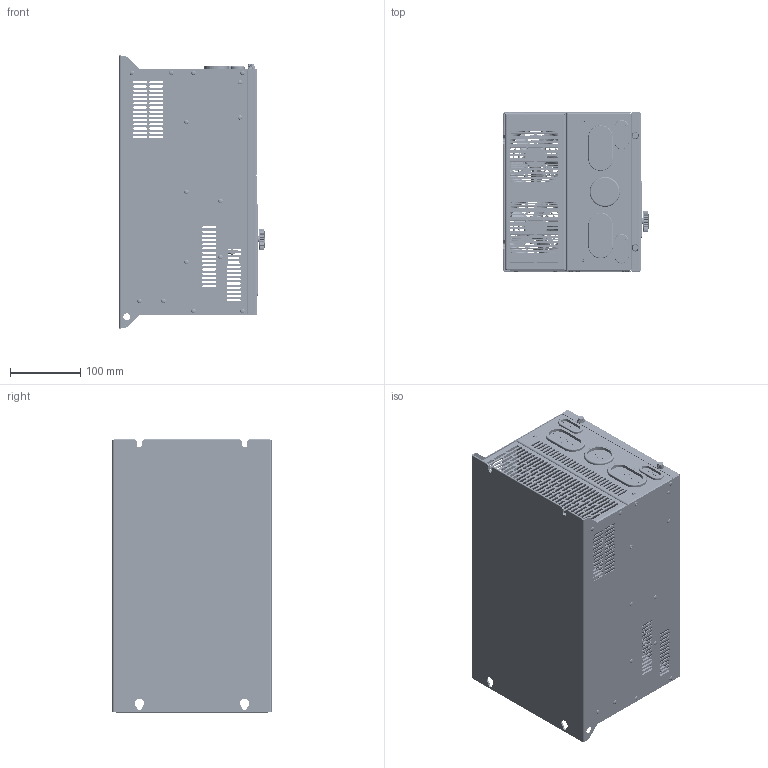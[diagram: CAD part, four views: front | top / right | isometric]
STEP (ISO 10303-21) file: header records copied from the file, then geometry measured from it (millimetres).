
FILE_DESCRIPTION((''),'2;1');
FILE_NAME('E160-30G_ASM','2022-12-09T',('500081'),(''),'CREO PARAMETRIC BY PTC INC, 2014350','CREO PARAMETRIC BY PTC INC, 2014350','');
FILE_SCHEMA(('CONFIG_CONTROL_DESIGN'));
Products named in the file (59): E160-30GT4C1-MS01; E160-30GT4C1-MS02; E160-30GT4C1-MS03; E160-30GT4C1-MS04; E160-30GT4C1-MS05; E160-30GT4C1-MS06; PANTOU-LD-M3X7; E160-30GT4C1-MA02_ASM; E160-30GT4C1-MS07; SIYIN-01; E160-30GT4C1-MS09; SIYIN-02; E160-30GT4C1-MS11; E160-30GT4C1-MS12; E160-30GT4C1-MA01_ASM; E160-30GT4C1-MH01; E160-30GT4C1-MI01; E160-30GT4C1-MI02; E160-30GT4C1-MI03; E160-30GT4C1-MA00_ASM; E300_KZB; JP_KZ_MUTOU; E300-VFPG4; E300_KZB_ASM; JP_JIANPANKE; JP_BOLIBAN; JP_Z_ASM; JP_PCB; 2P-SHUMAGUAN; 3P-SHUMAGUAN; 5PP_ASM; JP_QINGCHUKAIGUAN; JP_GONGTOU; JP_LED; JP_PCB_ASM; JP_JIANPANGAI; JP_JIANPANGAI_ASM; JP_CANG; 10P_MU; JP_CANG_ASM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
Assembly tree (120 placements, depth 5):
  E160-30G_ASM
    E160-30GT4C1-MA00_ASM
      E160-30GT4C1-MA01_ASM
        E160-30GT4C1-MA02_ASM
          E160-30GT4C1-MS01
          E160-30GT4C1-MS02
          E160-30GT4C1-MS03  x2
          E160-30GT4C1-MS04
          E160-30GT4C1-MS05  x2
          E160-30GT4C1-MS06
          PANTOU-LD-M3X7  x28
        E160-30GT4C1-MS07
        SIYIN-01
        E160-30GT4C1-MS09
        SIYIN-02
        E160-30GT4C1-MS11
        E160-30GT4C1-MS12
      E160-30GT4C1-MH01
      E160-30GT4C1-MI01
      E160-30GT4C1-MI02
      E160-30GT4C1-MI03
    E300_KZB_ASM
      E300_KZB
      JP_KZ_MUTOU
      E300-VFPG4
    E300-JP-ZJ_ASM
      JP_Z_ASM
        JP_JIANPANKE
        JP_BOLIBAN
      JP_PCB_ASM
        JP_PCB
        5PP_ASM
          2P-SHUMAGUAN
          3P-SHUMAGUAN
        JP_QINGCHUKAIGUAN  x9
        JP_GONGTOU
        JP_LED  x7
      JP_JIANPANGAI_ASM
        JP_JIANPANGAI
      JP_CANG_ASM
        JP_CANG
        10P_MU
      MO-BIOAZHUN
      JP_MIANMO_ASM
        JP_MIANMO
        JP_XUANNIU
      JP_BIANMAQI
    E160-30G-QJ-ZJ_ASM
      FJ-80X80X25MM  x2
      WZ-R80  x2
    E160-30G-FL-ZJ_ASM
      SJ-ZHU-M3X9  x6
      M4-LS-MG  x2
      M4R8-9R5ST  x8
      CHENGTOU-LS-M4X8-7  x2
      M4-10  x2
      TAO_43-KK-40X3MM
      TAO_65X35-KK-61X31X2MM  x2
      TAO_42X20-KK-39X17X2-5MM  x2
Bounding box: 207.9 x 229 x 390.4 mm (x, y, z)
Volume: 1860723.4 mm3; surface area: 2692648.8 mm2
Topology: 158 solids, 160 shells, 13719 faces, 35915 edges, 23055 vertices
Faces by surface type: plane 9745, cylinder 2703, torus 431, extrusion 248, cone 214, sphere 134, bspline 130, revolution 114
Entity records: 431334 total; most frequent: CARTESIAN_POINT 72983, ORIENTED_EDGE 53688, DIRECTION 51499, PRESENTATION_STYLE_ASSIGNMENT 26865, EDGE_CURVE 26846, STYLED_ITEM 24793, CURVE_STYLE 24433, VECTOR 20481
